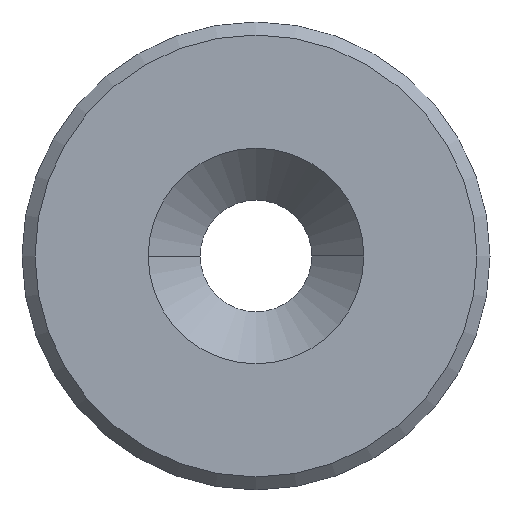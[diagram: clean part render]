
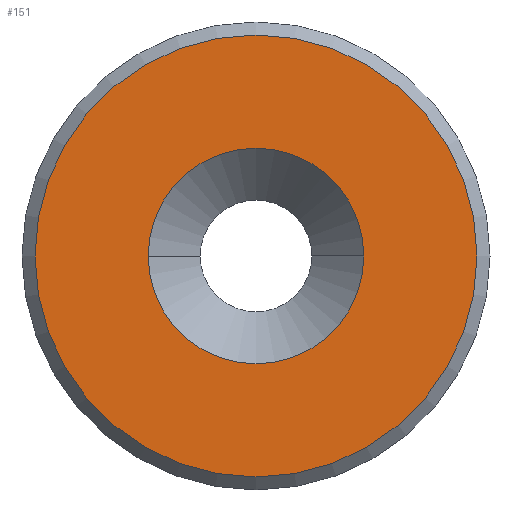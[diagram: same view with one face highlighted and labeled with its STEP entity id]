
A CAD part, left-side view. The second image highlights one B-rep face of the part: STEP entity #151.
In plain terms, the highlighted planar face has unit normal (-1, 0, 0).
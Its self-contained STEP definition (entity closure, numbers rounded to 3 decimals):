
#8 = CIRCLE ( 'NONE', #451, 4.15 ) ;
#16 = DIRECTION ( 'NONE',  ( -1., 0., 0. ) ) ;
#22 = ORIENTED_EDGE ( 'NONE', *, *, #234, .F. ) ;
#27 = DIRECTION ( 'NONE',  ( 0., 1., 0. ) ) ;
#47 = CARTESIAN_POINT ( 'NONE',  ( -122., 42.5, -86. ) ) ;
#62 = EDGE_LOOP ( 'NONE', ( #134, #22 ) ) ;
#73 = AXIS2_PLACEMENT_3D ( 'NONE', #117, #426, #267 ) ;
#93 = ORIENTED_EDGE ( 'NONE', *, *, #472, .T. ) ;
#117 = CARTESIAN_POINT ( 'NONE',  ( -122., 40.325, -86. ) ) ;
#134 = ORIENTED_EDGE ( 'NONE', *, *, #139, .F. ) ;
#139 = EDGE_CURVE ( 'NONE', #347, #352, #8, .T. ) ;
#150 = DIRECTION ( 'NONE',  ( -1., 0., 0. ) ) ;
#151 = ADVANCED_FACE ( 'NONE', ( #448, #303 ), #454, .T. ) ;
#162 = CARTESIAN_POINT ( 'NONE',  ( -122., 34., -86. ) ) ;
#173 = EDGE_LOOP ( 'NONE', ( #93, #269 ) ) ;
#183 = CARTESIAN_POINT ( 'NONE',  ( -122., 34., -86. ) ) ;
#193 = EDGE_CURVE ( 'NONE', #467, #394, #302, .T. ) ;
#230 = CARTESIAN_POINT ( 'NONE',  ( -122., 34., -86. ) ) ;
#234 = EDGE_CURVE ( 'NONE', #352, #347, #350, .T. ) ;
#244 = AXIS2_PLACEMENT_3D ( 'NONE', #253, #364, #27 ) ;
#253 = CARTESIAN_POINT ( 'NONE',  ( -122., 34., -86. ) ) ;
#263 = DIRECTION ( 'NONE',  ( -1., 0., 0. ) ) ;
#267 = DIRECTION ( 'NONE',  ( 0., 0., 1. ) ) ;
#269 = ORIENTED_EDGE ( 'NONE', *, *, #193, .T. ) ;
#302 = CIRCLE ( 'NONE', #400, 8.5 ) ;
#303 = FACE_BOUND ( 'NONE', #62, .T. ) ;
#313 = DIRECTION ( 'NONE',  ( 0., 1., 0. ) ) ;
#334 = CIRCLE ( 'NONE', #244, 8.5 ) ;
#340 = DIRECTION ( 'NONE',  ( 0., 1., 0. ) ) ;
#347 = VERTEX_POINT ( 'NONE', #445 ) ;
#350 = CIRCLE ( 'NONE', #409, 4.15 ) ;
#352 = VERTEX_POINT ( 'NONE', #373 ) ;
#364 = DIRECTION ( 'NONE',  ( -1., 0., 0. ) ) ;
#373 = CARTESIAN_POINT ( 'NONE',  ( -122., 34., -81.85 ) ) ;
#383 = DIRECTION ( 'NONE',  ( 0., 1., 0. ) ) ;
#394 = VERTEX_POINT ( 'NONE', #47 ) ;
#400 = AXIS2_PLACEMENT_3D ( 'NONE', #162, #16, #313 ) ;
#403 = CARTESIAN_POINT ( 'NONE',  ( -122., 25.5, -86. ) ) ;
#409 = AXIS2_PLACEMENT_3D ( 'NONE', #230, #150, #340 ) ;
#426 = DIRECTION ( 'NONE',  ( -1., 0., 0. ) ) ;
#445 = CARTESIAN_POINT ( 'NONE',  ( -122., 34., -90.15 ) ) ;
#448 = FACE_OUTER_BOUND ( 'NONE', #173, .T. ) ;
#451 = AXIS2_PLACEMENT_3D ( 'NONE', #183, #263, #383 ) ;
#454 = PLANE ( 'NONE',  #73 ) ;
#467 = VERTEX_POINT ( 'NONE', #403 ) ;
#472 = EDGE_CURVE ( 'NONE', #394, #467, #334, .T. ) ;
